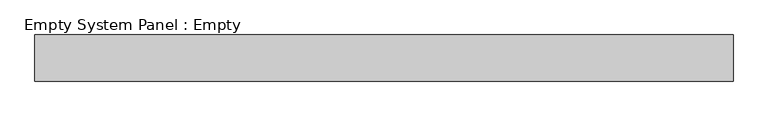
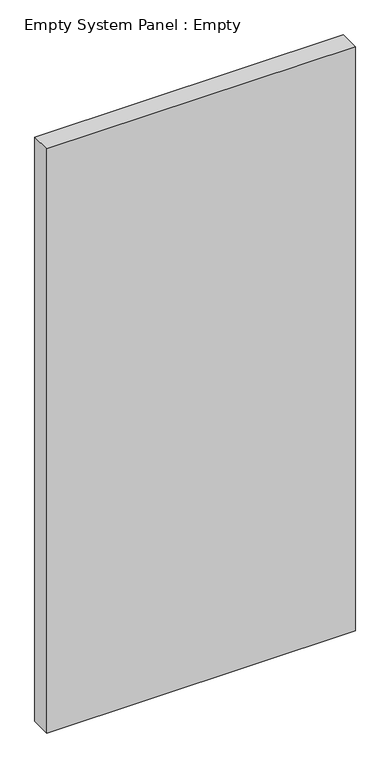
"""IFC4 building model written with IfcOpenShell, lengths in millimetres: plate geometry, Empty System Panel : Empty."""

from ifc_helpers import new_model, si_unit, origin, origin_with_axes, place, context, project, spatial, polyline, outline, extrude, source, transform, mapped, element, save


def empty_system_panel_empty_413cb92e(model_context):
    return source(origin(), model_context, "Body", "SweptSolid", [
        extrude(outline(polyline([(750.0, -150.0), (-750.0, -150.0), (-750.0, -50.0), (750.0, -50.0), (750.0, -150.0)])), origin_with_axes(), (0.0, 0.0, 1.0), 3000.0),
    ])


if __name__ == "__main__":
    model = new_model("IFC4")
    model_context = context("Model", 3, world=origin())
    ifc_project = project(units=[si_unit("LENGTHUNIT", "METRE", prefix="MILLI")], contexts=[model_context])
    site = spatial("IfcSite", under=ifc_project)
    building = spatial("IfcBuilding", under=site)
    placement = place(None, origin())
    empty_system_panel_empty_shape = empty_system_panel_empty_413cb92e(model_context)
    element("IfcPlate", 1, ObjectType="Empty System Panel : Empty", at=placement, inside=building, context=model_context, shape_type="MappedRepresentation", body=[
        mapped(empty_system_panel_empty_shape, transform((0.0, 0.0, 0.0), x_axis=(1.0, 0.0, 0.0), y_axis=(0.0, 1.0, 0.0), z_axis=(0.0, 0.0, 1.0))),
    ])
    save(model, "model.ifc")
